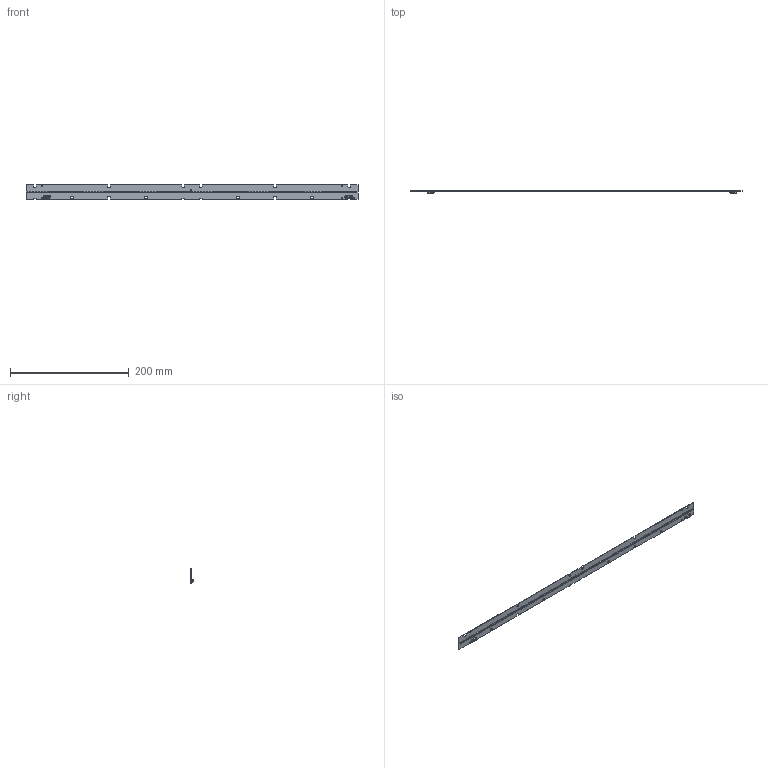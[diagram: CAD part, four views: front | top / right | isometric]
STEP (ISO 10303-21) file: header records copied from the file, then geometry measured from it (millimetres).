
FILE_DESCRIPTION(/* description */ ('Unknown'),/* implementation_level */ '2;1');
FILE_NAME(/* name */ 'LinLED 560x24mm 4000lm(112x2835) 2C sh-000 2018-06-18',/* time_stamp */ '2018-06-18T10:55:22+02:00',/* author */ ('Unknown'),/* organization */ ('Unknown'),/* preprocessor_version */ 'ST-DEVELOPER v16.7',/* originating_system */ 'DEX',/* authorisation */ $);
FILE_SCHEMA (('AUTOMOTIVE_DESIGN {1 0 10303 214 3 1 1}'));
Products named in the file (1): LinLED 560x24mm 4000lm(112x2835) 2C sh-000 2018-06-18
Bounding box: 560 x 4.5 x 24 mm (x, y, z)
Volume: 14406.9 mm3; surface area: 29491.2 mm2
Topology: 3 solids, 3 shells, 2434 faces, 6344 edges, 4157 vertices
Faces by surface type: plane 2104, cylinder 147, bspline 127, cone 30, sphere 16, torus 10
Full cylindrical faces by diameter (mm): 1.5 x1, 4.3 x4
Entity records: 90026 total; most frequent: CARTESIAN_POINT 17676, ORIENTED_EDGE 12630, DIRECTION 10779, EDGE_CURVE 6315, LINE 5619, VECTOR 5619, VERTEX_POINT 4151, EDGE_LOOP 2706
